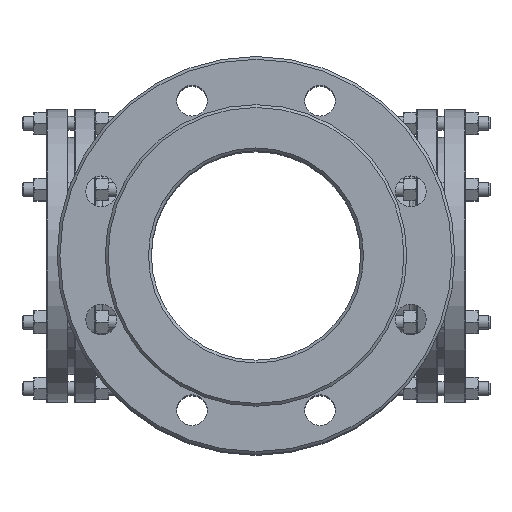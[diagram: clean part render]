
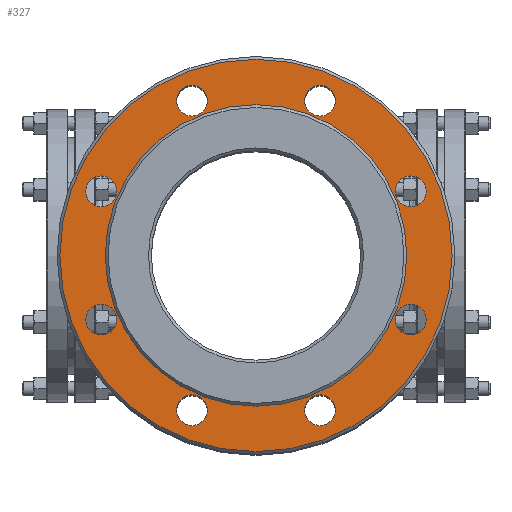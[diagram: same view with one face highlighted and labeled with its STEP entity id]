
A CAD part, top view. The second image highlights one B-rep face of the part: STEP entity #327.
In plain terms, the highlighted planar face has unit normal (0, 0, 1).
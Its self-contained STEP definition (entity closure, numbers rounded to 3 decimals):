
#327=ADVANCED_FACE('',(#3591,#3593,#3595,#3597,#3599,#3601,#3603,#3605,#3607,#3609),
#3611,.T.);
#3591=FACE_BOUND('',#3592,.T.);
#3592=EDGE_LOOP('',(#10422));
#3593=FACE_BOUND('',#3594,.T.);
#3594=EDGE_LOOP('',(#10423));
#3595=FACE_BOUND('',#3596,.T.);
#3596=EDGE_LOOP('',(#10424));
#3597=FACE_BOUND('',#3598,.T.);
#3598=EDGE_LOOP('',(#10425));
#3599=FACE_BOUND('',#3600,.T.);
#3600=EDGE_LOOP('',(#10426));
#3601=FACE_BOUND('',#3602,.T.);
#3602=EDGE_LOOP('',(#10427));
#3603=FACE_BOUND('',#3604,.T.);
#3604=EDGE_LOOP('',(#10428));
#3605=FACE_BOUND('',#3606,.T.);
#3606=EDGE_LOOP('',(#10429));
#3607=FACE_BOUND('',#3608,.T.);
#3608=EDGE_LOOP('',(#10430));
#3609=FACE_BOUND('',#3610,.T.);
#3610=EDGE_LOOP('',(#10431));
#3611=PLANE('',#3612);
#3612=AXIS2_PLACEMENT_3D('',#3613,#3614,#3615);
#3613=CARTESIAN_POINT('',(0.,0.,223.));
#3614=DIRECTION('',(0.,0.,1.));
#3615=DIRECTION('',(1.,0.,0.));
#10422=ORIENTED_EDGE('',*,*,#13312,.F.);
#10423=ORIENTED_EDGE('',*,*,#13313,.T.);
#10424=ORIENTED_EDGE('',*,*,#13314,.T.);
#10425=ORIENTED_EDGE('',*,*,#13315,.T.);
#10426=ORIENTED_EDGE('',*,*,#13316,.T.);
#10427=ORIENTED_EDGE('',*,*,#13229,.T.);
#10428=ORIENTED_EDGE('',*,*,#13317,.F.);
#10429=ORIENTED_EDGE('',*,*,#13318,.F.);
#10430=ORIENTED_EDGE('',*,*,#13319,.F.);
#10431=ORIENTED_EDGE('',*,*,#13320,.F.);
#13229=EDGE_CURVE('',#14764,#14764,#14765,.T.);
#13312=EDGE_CURVE('',#14894,#14894,#14895,.T.);
#13313=EDGE_CURVE('',#14896,#14896,#14897,.T.);
#13314=EDGE_CURVE('',#14898,#14898,#14899,.T.);
#13315=EDGE_CURVE('',#14900,#14900,#14901,.T.);
#13316=EDGE_CURVE('',#14902,#14902,#14903,.T.);
#13317=EDGE_CURVE('',#14904,#14904,#14905,.T.);
#13318=EDGE_CURVE('',#14906,#14906,#14907,.T.);
#13319=EDGE_CURVE('',#14908,#14908,#14909,.T.);
#13320=EDGE_CURVE('',#14910,#14910,#14911,.T.);
#14764=VERTEX_POINT('',#18724);
#14765=CIRCLE('',#18725,108.);
#14894=VERTEX_POINT('',#20471);
#14895=CIRCLE('',#20472,140.5);
#14896=VERTEX_POINT('',#20476);
#14897=CIRCLE('',#20477,11.);
#14898=VERTEX_POINT('',#20481);
#14899=CIRCLE('',#20482,11.);
#14900=VERTEX_POINT('',#20486);
#14901=CIRCLE('',#20487,11.);
#14902=VERTEX_POINT('',#20491);
#14903=CIRCLE('',#20492,11.);
#14904=VERTEX_POINT('',#20496);
#14905=CIRCLE('',#20497,11.);
#14906=VERTEX_POINT('',#20501);
#14907=CIRCLE('',#20502,11.);
#14908=VERTEX_POINT('',#20506);
#14909=CIRCLE('',#20507,11.);
#14910=VERTEX_POINT('',#20511);
#14911=CIRCLE('',#20512,11.);
#18724=CARTESIAN_POINT('',(108.,0.,223.));
#18725=AXIS2_PLACEMENT_3D('',#18726,#18727,#18728);
#18726=CARTESIAN_POINT('',(0.,0.,223.));
#18727=DIRECTION('',(0.,0.,-1.));
#18728=DIRECTION('',(1.,0.,0.));
#20471=CARTESIAN_POINT('',(140.5,0.,223.));
#20472=AXIS2_PLACEMENT_3D('',#20473,#20474,#20475);
#20473=CARTESIAN_POINT('',(0.,0.,223.));
#20474=DIRECTION('',(0.,0.,-1.));
#20475=DIRECTION('',(1.,0.,0.));
#20476=CARTESIAN_POINT('',(121.866,45.922,223.));
#20477=AXIS2_PLACEMENT_3D('',#20478,#20479,#20480);
#20478=CARTESIAN_POINT('',(110.866,45.922,223.));
#20479=DIRECTION('',(0.,0.,-1.));
#20480=DIRECTION('',(1.,0.,0.));
#20481=CARTESIAN_POINT('',(56.922,110.866,223.));
#20482=AXIS2_PLACEMENT_3D('',#20483,#20484,#20485);
#20483=CARTESIAN_POINT('',(45.922,110.866,223.));
#20484=DIRECTION('',(0.,0.,-1.));
#20485=DIRECTION('',(1.,0.,0.));
#20486=CARTESIAN_POINT('',(56.922,-110.866,223.));
#20487=AXIS2_PLACEMENT_3D('',#20488,#20489,#20490);
#20488=CARTESIAN_POINT('',(45.922,-110.866,223.));
#20489=DIRECTION('',(0.,0.,-1.));
#20490=DIRECTION('',(1.,0.,0.));
#20491=CARTESIAN_POINT('',(121.866,-45.922,223.));
#20492=AXIS2_PLACEMENT_3D('',#20493,#20494,#20495);
#20493=CARTESIAN_POINT('',(110.866,-45.922,223.));
#20494=DIRECTION('',(0.,0.,-1.));
#20495=DIRECTION('',(1.,0.,0.));
#20496=CARTESIAN_POINT('',(-121.866,45.922,223.));
#20497=AXIS2_PLACEMENT_3D('',#20498,#20499,#20500);
#20498=CARTESIAN_POINT('',(-110.866,45.922,223.));
#20499=DIRECTION('',(0.,0.,1.));
#20500=DIRECTION('',(-1.,0.,0.));
#20501=CARTESIAN_POINT('',(-56.922,110.866,223.));
#20502=AXIS2_PLACEMENT_3D('',#20503,#20504,#20505);
#20503=CARTESIAN_POINT('',(-45.922,110.866,223.));
#20504=DIRECTION('',(0.,0.,1.));
#20505=DIRECTION('',(-1.,0.,0.));
#20506=CARTESIAN_POINT('',(-56.922,-110.866,223.));
#20507=AXIS2_PLACEMENT_3D('',#20508,#20509,#20510);
#20508=CARTESIAN_POINT('',(-45.922,-110.866,223.));
#20509=DIRECTION('',(0.,0.,1.));
#20510=DIRECTION('',(-1.,0.,0.));
#20511=CARTESIAN_POINT('',(-121.866,-45.922,223.));
#20512=AXIS2_PLACEMENT_3D('',#20513,#20514,#20515);
#20513=CARTESIAN_POINT('',(-110.866,-45.922,223.));
#20514=DIRECTION('',(0.,0.,1.));
#20515=DIRECTION('',(-1.,0.,0.));
